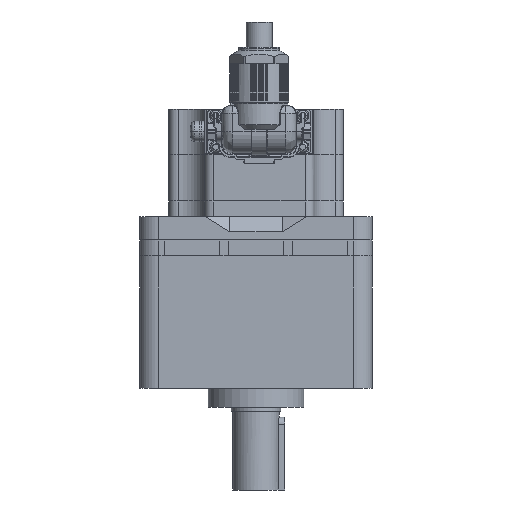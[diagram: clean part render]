
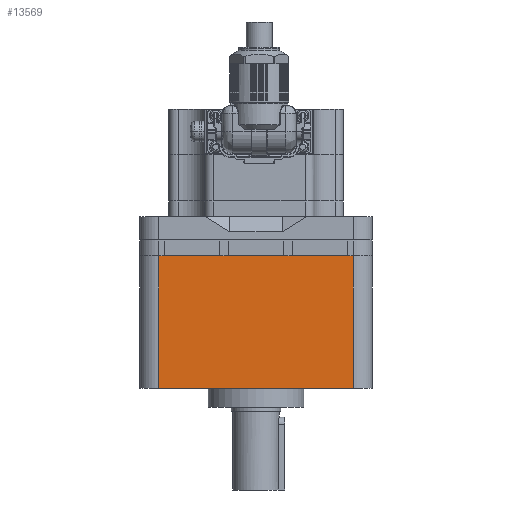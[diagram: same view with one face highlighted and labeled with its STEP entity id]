
A CAD part, front view. The second image highlights one B-rep face of the part: STEP entity #13569.
In plain terms, the highlighted planar face has unit normal (0, -1, 0).
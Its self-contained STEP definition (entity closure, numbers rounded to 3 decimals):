
#786 = DIRECTION ( 'NONE',  ( 1., 0., 0. ) ) ;
#1795 = FACE_OUTER_BOUND ( 'NONE', #25543, .T. ) ;
#2191 = CARTESIAN_POINT ( 'NONE',  ( 9.5, -40., -5.5 ) ) ;
#2494 = VECTOR ( 'NONE', #12541, 1000. ) ;
#2543 = ORIENTED_EDGE ( 'NONE', *, *, #6582, .F. ) ;
#2859 = VECTOR ( 'NONE', #19376, 1000. ) ;
#3157 = CARTESIAN_POINT ( 'NONE',  ( 0., -40., -5.5 ) ) ;
#3374 = LINE ( 'NONE', #3157, #39614 ) ;
#3751 = CARTESIAN_POINT ( 'NONE',  ( -40., -40., -5.5 ) ) ;
#5195 = DIRECTION ( 'NONE',  ( 1., 0., 0. ) ) ;
#5550 = VERTEX_POINT ( 'NONE', #27412 ) ;
#5750 = DIRECTION ( 'NONE',  ( 1., 0., 0. ) ) ;
#5754 = CARTESIAN_POINT ( 'NONE',  ( -12.5, -40., -5.5 ) ) ;
#6370 = EDGE_CURVE ( 'NONE', #31384, #7985, #37997, .T. ) ;
#6582 = EDGE_CURVE ( 'NONE', #24139, #38004, #21610, .T. ) ;
#6632 = VECTOR ( 'NONE', #40298, 1000. ) ;
#7985 = VERTEX_POINT ( 'NONE', #13879 ) ;
#8061 = CARTESIAN_POINT ( 'NONE',  ( -33.5, -40., -5.5 ) ) ;
#8351 = LINE ( 'NONE', #25925, #2859 ) ;
#10112 = AXIS2_PLACEMENT_3D ( 'NONE', #18387, #40438, #20927 ) ;
#10956 = ORIENTED_EDGE ( 'NONE', *, *, #39501, .F. ) ;
#11185 = VECTOR ( 'NONE', #28264, 1000. ) ;
#11352 = LINE ( 'NONE', #30222, #25391 ) ;
#11941 = VERTEX_POINT ( 'NONE', #17589 ) ;
#12541 = DIRECTION ( 'NONE',  ( 1., 0., 0. ) ) ;
#12542 = ORIENTED_EDGE ( 'NONE', *, *, #20337, .F. ) ;
#13193 = DIRECTION ( 'NONE',  ( 0., 0., -1. ) ) ;
#13401 = CARTESIAN_POINT ( 'NONE',  ( -33.5, -40., -51. ) ) ;
#13569 = ADVANCED_FACE ( 'NONE', ( #1795 ), #14545, .T. ) ;
#13879 = CARTESIAN_POINT ( 'NONE',  ( -12.5, -40., -5.5 ) ) ;
#14278 = ORIENTED_EDGE ( 'NONE', *, *, #16405, .T. ) ;
#14534 = LINE ( 'NONE', #18372, #22463 ) ;
#14545 = PLANE ( 'NONE',  #10112 ) ;
#15744 = ORIENTED_EDGE ( 'NONE', *, *, #36690, .F. ) ;
#16225 = CARTESIAN_POINT ( 'NONE',  ( 12.5, -40., -5.5 ) ) ;
#16405 = EDGE_CURVE ( 'NONE', #11941, #5550, #11352, .T. ) ;
#17589 = CARTESIAN_POINT ( 'NONE',  ( -33.5, -40., -51. ) ) ;
#18372 = CARTESIAN_POINT ( 'NONE',  ( -40., -40., -5.5 ) ) ;
#18387 = CARTESIAN_POINT ( 'NONE',  ( -40., -40., -51. ) ) ;
#18437 = EDGE_CURVE ( 'NONE', #20509, #24139, #40817, .T. ) ;
#19376 = DIRECTION ( 'NONE',  ( 0., 0., 1. ) ) ;
#19844 = VERTEX_POINT ( 'NONE', #30960 ) ;
#20337 = EDGE_CURVE ( 'NONE', #30799, #20509, #14534, .T. ) ;
#20509 = VERTEX_POINT ( 'NONE', #16225 ) ;
#20522 = ORIENTED_EDGE ( 'NONE', *, *, #6370, .F. ) ;
#20529 = LINE ( 'NONE', #33438, #41211 ) ;
#20927 = DIRECTION ( 'NONE',  ( 0., 0., -1. ) ) ;
#21610 = LINE ( 'NONE', #34534, #6632 ) ;
#21870 = VERTEX_POINT ( 'NONE', #8061 ) ;
#21886 = ORIENTED_EDGE ( 'NONE', *, *, #18437, .F. ) ;
#22463 = VECTOR ( 'NONE', #5195, 1000. ) ;
#22573 = VECTOR ( 'NONE', #13193, 1000. ) ;
#22959 = LINE ( 'NONE', #13401, #22573 ) ;
#24139 = VERTEX_POINT ( 'NONE', #29544 ) ;
#24473 = CARTESIAN_POINT ( 'NONE',  ( 12.5, -40., -5.5 ) ) ;
#25391 = VECTOR ( 'NONE', #26843, 1000. ) ;
#25543 = EDGE_LOOP ( 'NONE', ( #15744, #36826, #14278, #31505, #2543, #21886, #12542, #31021, #10956, #20522 ) ) ;
#25925 = CARTESIAN_POINT ( 'NONE',  ( 33.5, -40., -51. ) ) ;
#26046 = LINE ( 'NONE', #3751, #31067 ) ;
#26843 = DIRECTION ( 'NONE',  ( 1., 0., 0. ) ) ;
#27412 = CARTESIAN_POINT ( 'NONE',  ( 33.5, -40., -51. ) ) ;
#28264 = DIRECTION ( 'NONE',  ( 1., 0., 0. ) ) ;
#28996 = DIRECTION ( 'NONE',  ( 1., 0., 0. ) ) ;
#29479 = CARTESIAN_POINT ( 'NONE',  ( -31.5, -40., -5.5 ) ) ;
#29544 = CARTESIAN_POINT ( 'NONE',  ( 31.5, -40., -5.5 ) ) ;
#30222 = CARTESIAN_POINT ( 'NONE',  ( -40., -40., -51. ) ) ;
#30799 = VERTEX_POINT ( 'NONE', #2191 ) ;
#30960 = CARTESIAN_POINT ( 'NONE',  ( -9.5, -40., -5.5 ) ) ;
#31021 = ORIENTED_EDGE ( 'NONE', *, *, #36249, .F. ) ;
#31067 = VECTOR ( 'NONE', #28996, 1000. ) ;
#31384 = VERTEX_POINT ( 'NONE', #29479 ) ;
#31505 = ORIENTED_EDGE ( 'NONE', *, *, #32196, .T. ) ;
#32196 = EDGE_CURVE ( 'NONE', #5550, #38004, #8351, .T. ) ;
#32405 = EDGE_CURVE ( 'NONE', #21870, #11941, #22959, .T. ) ;
#33438 = CARTESIAN_POINT ( 'NONE',  ( -40., -40., -5.5 ) ) ;
#34534 = CARTESIAN_POINT ( 'NONE',  ( -40., -40., -5.5 ) ) ;
#36249 = EDGE_CURVE ( 'NONE', #19844, #30799, #3374, .T. ) ;
#36690 = EDGE_CURVE ( 'NONE', #21870, #31384, #20529, .T. ) ;
#36826 = ORIENTED_EDGE ( 'NONE', *, *, #32405, .T. ) ;
#37997 = LINE ( 'NONE', #5754, #2494 ) ;
#38004 = VERTEX_POINT ( 'NONE', #38249 ) ;
#38249 = CARTESIAN_POINT ( 'NONE',  ( 33.5, -40., -5.5 ) ) ;
#39501 = EDGE_CURVE ( 'NONE', #7985, #19844, #26046, .T. ) ;
#39614 = VECTOR ( 'NONE', #5750, 1000. ) ;
#40298 = DIRECTION ( 'NONE',  ( 1., 0., 0. ) ) ;
#40438 = DIRECTION ( 'NONE',  ( 0., -1., 0. ) ) ;
#40817 = LINE ( 'NONE', #24473, #11185 ) ;
#41211 = VECTOR ( 'NONE', #786, 1000. ) ;
